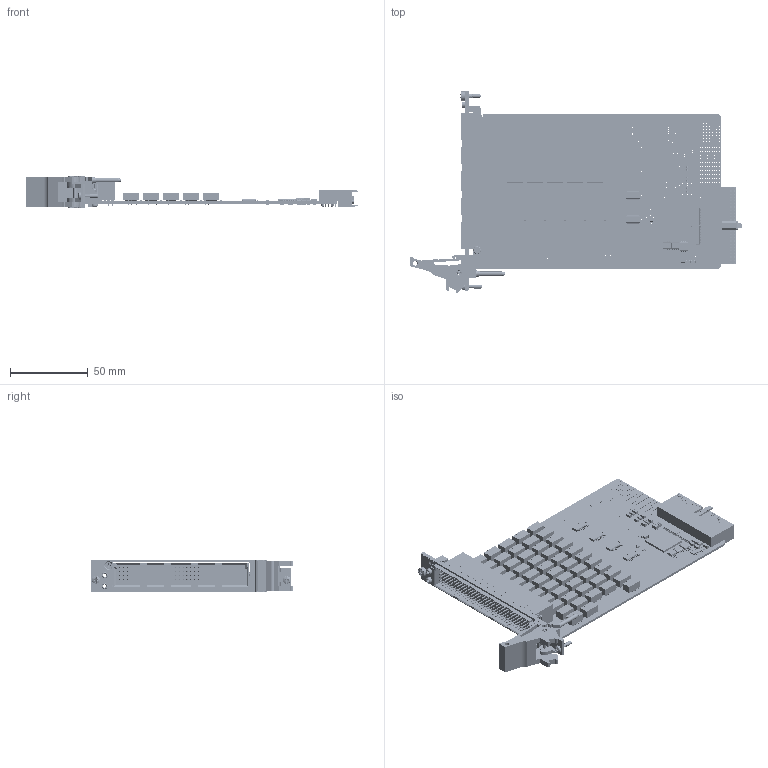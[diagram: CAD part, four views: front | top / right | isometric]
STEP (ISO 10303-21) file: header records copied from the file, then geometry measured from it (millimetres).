
FILE_DESCRIPTION (( 'STEP AP214' ), '1' );
FILE_NAME ('40-139A-401 PXI 2A Relay 52xSPDT Module.STEP', '2025-07-23T07:06:43', ( '' ), ( '' ), 'SwSTEP 2.0', 'SolidWorks 2023', '' );
FILE_SCHEMA (( 'AUTOMOTIVE_DESIGN' ));
Length unit declared in the file: millimetre
Products named in the file (64): C-CN-1071; C-IC-458 LDO VOLTAGE REGULATOR 1.2V SOT; L-FP-499 Label for C-FP-499 assy; C-RL-257 50Mw 5V Short Pin Relay_Diode clearance ; L-FX-165 PXI Handle Label; C-CN-355 Compact pci connector 3; C-CP-141 CAP 10UF 1206 35V X5R 10%; P-FX-017 M2,5 Collar Posi-Slot Screw; C-IC-598 64Mbit Flash Memory 8-Pin SOIC; C-SC-056 80V 250mA (DC) SOD323 Diode; C-CN-161 Housing; C-CP-175 CAP 22uF 1206 25V X5R 10%; C-FX-101 Screw, M2.5 x 6, Pan Hd, Pozi, Steel, BZP; A-PC-1687 PXI 2A Relay 52xSPDT PCB; C-BP-015 PXI 3U x 1 Slot Blank Panel; C-FX-544 2.5 Self Clinching Tourque nut; C-RS-190 Res 0R0 SIZE 0603 SMT; C-RS-659 RES NW 4K7 4RES 8PINS SMT1206; C-CP-130 CAP 1uF CERAMIC SMT 0603; C-IC-489 F-RAM Semiconductor Serial-I2C FRAM Memory 512kbit 2-3.6 V 8-Pin SOIC; C-FP-499 PXI 3U 1-Slot 160 Way DIN 41612; C-CP-139 CAP 4.7UF 1206 16V X7R 10%; C-IC-442 VSSOP 8PIN SD; C-FX-165 CPCI Ejector Handle; C-CP-034; L-FP-499-# Label for C-FP-499_Výchozí; A-FP-499-L1 PXI 3U 1SLT 160Way FP Full Assembly; C-CN-161 Pin_Row A; C-RS-147 Res 100R 0603 1-16W 1% 100PPM; C-CP-239  Power Line Filter; C-CN-161 Pin_Row C; C-IC-425 SOICN 8PIN SD; C-FX-165 Handle Finger; C-CN-161 Pin_Row D; C-SC-168 SOT363 Complementary MOSFET 20V-8V; C-FX-028 Nut, M2.5, Hex, Steel, BZP_C-FX-028 M2,5 Nut; Z-FX-2001 FP Fixing - Bush + Screw; C-RS-148 Res 1K 0603 1-16W 1% 100PPM; C-RS-521 Res 120R (0603) 1-16W 1% 100pp; C-FX-456 PXI 1-Slot Mtg Block DIN 41612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
Assembly tree (416 placements, depth 5):
  40-139A-401 PXI 2A Relay 52xSPDT Module
    A-PC-1687 PXI 2A Relay 52xSPDT PCB
      A-PC-1687-# PXI 2A Relay 52xSPDT PCB
        C-PC-1687 PXI 2A Relay 52xSPDT PCB
        C-IC-550 Voltage Difference Amplifier  x4
        C-RS-190 Res 0R0 SIZE 0603 SMT  x5
        C-CP-034  x21
        C-SC-056 80V 250mA (DC) SOD323 Diode  x52
        C-RL-257 50Mw 5V Short Pin Relay_Diode clearance   x53
        C-SC-168 SOT363 Complementary MOSFET 20V-8V  x2
        C-CP-175 CAP 22uF 1206 25V X5R 10%  x2
        C-CP-141 CAP 10UF 1206 35V X5R 10%  x7
        C-RS-152 Res 10K 0603 1-16W 1% 300PPM  x2
        C-RS-147 Res 100R 0603 1-16W 1% 100PPM
        C-CP-099 CAP 0.1uF 16V 0402 SMT  x12
        C-IC-489 F-RAM Semiconductor Serial-I2C FRAM Memory 512kbit 2-3.6 V 8-Pin SOIC
        C-IC-425 SOICN 8PIN SD
        C-IC-598 64Mbit Flash Memory 8-Pin SOIC
        C-IC-442 VSSOP 8PIN SD
        C-IC-458 LDO VOLTAGE REGULATOR 1.2V SOT
        C-IC-546 24 BIT BUS SWITCH 56PIN TVSOP  x2
        C-IC-369 FPGA 17000 Cells 65nm Technology 1.2V 256-Pin FTBGA
        C-RS-148 Res 1K 0603 1-16W 1% 100PPM  x2
        C-RS-659 RES NW 4K7 4RES 8PINS SMT1206  x4
        C-RS-521 Res 120R (0603) 1-16W 1% 100pp
        C-SC-146 Dual Transistor SOT-14  x2
        C-MS-803 BEAD 120R 0603 2A 0R05 25%  x2
        C-CN-1071
          C-CN-107-BODY
          C-CN-107-PIN  x8
        C-CP-124 CAP 10nF CERAMIC SMT 0402  x29
        C-CP-130 CAP 1uF CERAMIC SMT 0603  x2
        C-CP-139 CAP 4.7UF 1206 16V X7R 10%  x2
        C-CP-239  Power Line Filter  x3
        C-CN-355 Compact pci connector 3
    A-FP-499-L1 PXI 3U 1SLT 160Way FP Full Assembly
      A-FP-499 PXI 3U 1-Slot 160 Way DIN 41612
        C-FP-499 PXI 3U 1-Slot 160 Way DIN 41612
          C-BP-015 PXI 3U x 1 Slot Blank Panel
        L-FP-499 Label for C-FP-499 assy
          L-FP-499-# Label for C-FP-499_Výchozí
        C-FX-544 2.5 Self Clinching Tourque nut  x2
      C-FX-165 CPCI Ejector Handle
        C-FX-165 Handle Body
        C-FX-165 Handle Finger
        C-FX-165 Handle Pin
        P-FX-017 M2,5 Collar Posi-Slot Screw
        L-FX-165 PXI Handle Label
      C-FX-456 PXI 1-Slot Mtg Block DIN 41612
      C-FX-042 Screw M2.5x6 CSK Pozi_M 2.5x06 - C-FX-042
      Z-FX-2001 FP Fixing - Bush + Screw
        C-BK-026 Bush Front Panel Mounting
        C-FX-1176 M2,5 Collar Posi-Slot Screw
      C-FX-101 Screw, M2.5 x 6, Pan Hd, Pozi, Steel, BZP
    C-CN-161 DIN 41612 160Way R-A Modified
      C-CN-161 Housing
      C-CN-161 Pin_Row E  x32
      C-CN-161 Pin_Row D  x32
      C-CN-161 Pin_Row C  x32
      C-CN-161 Pin_Row B  x32
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Bounding box: 213.7 x 129.63 x 20 mm (x, y, z)
Volume: 84559.8 mm3; surface area: 100133.4 mm2
Topology: 410 solids, 429 shells, 26793 faces, 68053 edges, 43284 vertices
Faces by surface type: plane 17663, cylinder 7115, cone 844, torus 582, sphere 428, bspline 161
Entity records: 465635 total; most frequent: CARTESIAN_POINT 67762, DIRECTION 61287, ORIENTED_EDGE 57798, EDGE_CURVE 28901, AXIS2_PLACEMENT_3D 22401, VERTEX_POINT 18546, VECTOR 16485, LINE 16485
